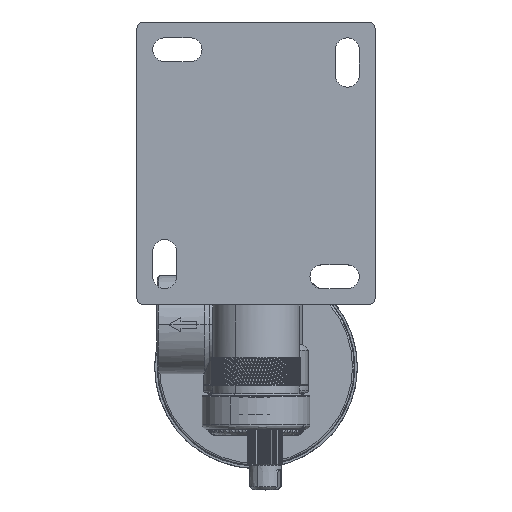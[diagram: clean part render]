
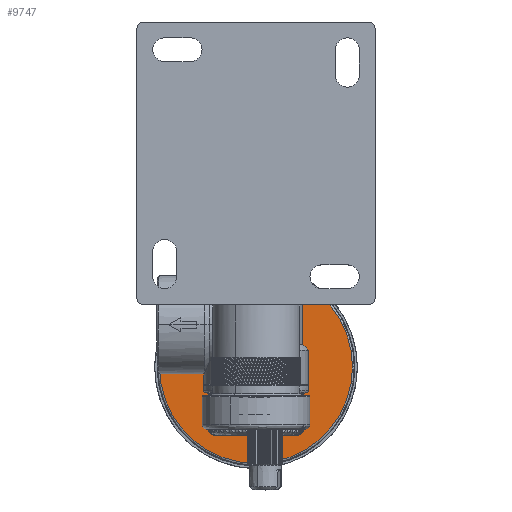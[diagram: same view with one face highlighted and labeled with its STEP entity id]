
A CAD part, top view. The second image highlights one B-rep face of the part: STEP entity #9747.
In plain terms, the highlighted planar face has unit normal (0, 0, 1) as drawn and (0, 0, -1) by its records, which use the part's own axes.
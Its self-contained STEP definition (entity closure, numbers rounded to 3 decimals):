
#9747 = ADVANCED_FACE ( 'NONE', ( #153065 ), #116346, .T. ) ;
#27660 = CARTESIAN_POINT ( 'NONE',  ( 0., 0., -1. ) ) ;
#35284 = VERTEX_POINT ( 'NONE', #155151 ) ;
#57987 = VERTEX_POINT ( 'NONE', #114910 ) ;
#68452 = EDGE_CURVE ( 'NONE', #57987, #35284, #84226, .T. ) ;
#68768 = CIRCLE ( 'NONE', #161484, 30.386 ) ;
#75904 = AXIS2_PLACEMENT_3D ( 'NONE', #156367, #89814, #166679 ) ;
#75989 = AXIS2_PLACEMENT_3D ( 'NONE', #165928, #76238, #103521 ) ;
#76238 = DIRECTION ( 'NONE',  ( 0., 0., -1. ) ) ;
#78890 = DIRECTION ( 'NONE',  ( 0., 0., 1. ) ) ;
#84226 = CIRCLE ( 'NONE', #75904, 30.386 ) ;
#89814 = DIRECTION ( 'NONE',  ( 0., 0., 1. ) ) ;
#95034 = DIRECTION ( 'NONE',  ( -1., 0., 0. ) ) ;
#103521 = DIRECTION ( 'NONE',  ( -1., 0., 0. ) ) ;
#114910 = CARTESIAN_POINT ( 'NONE',  ( 30.386, 0., -1. ) ) ;
#116346 = PLANE ( 'NONE',  #75989 ) ;
#120395 = ORIENTED_EDGE ( 'NONE', *, *, #68452, .F. ) ;
#149071 = EDGE_LOOP ( 'NONE', ( #162227, #120395 ) ) ;
#152669 = EDGE_CURVE ( 'NONE', #35284, #57987, #68768, .T. ) ;
#153065 = FACE_OUTER_BOUND ( 'NONE', #149071, .T. ) ;
#155151 = CARTESIAN_POINT ( 'NONE',  ( -30.386, 0., -1. ) ) ;
#156367 = CARTESIAN_POINT ( 'NONE',  ( 0., 0., -1. ) ) ;
#161484 = AXIS2_PLACEMENT_3D ( 'NONE', #27660, #78890, #95034 ) ;
#162227 = ORIENTED_EDGE ( 'NONE', *, *, #152669, .F. ) ;
#165928 = CARTESIAN_POINT ( 'NONE',  ( 0., 15.193, -1. ) ) ;
#166679 = DIRECTION ( 'NONE',  ( -1., 0., 0. ) ) ;
